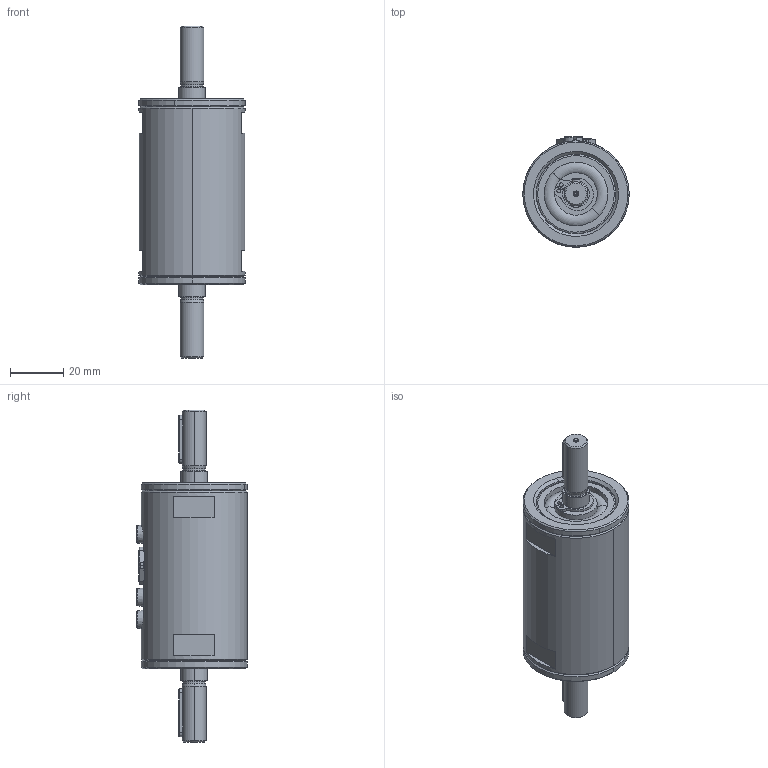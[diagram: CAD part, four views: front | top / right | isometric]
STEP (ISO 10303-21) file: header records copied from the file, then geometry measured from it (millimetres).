
FILE_DESCRIPTION (( 'STEP AP203' ), '1' );
FILE_NAME ('400006-ATS033-7,5Nm-7mm-Rund.STEP', '2017-02-20T10:21:57', ( '' ), ( '' ), 'SwSTEP 2.0', 'SolidWorks 2016', '' );
FILE_SCHEMA (( 'CONFIG_CONTROL_DESIGN' ));
Length unit declared in the file: millimetre
Products named in the file (14): 400006-ATS033-7,5Nm-7mm-Rund; 400006-ATM004_Rohrgehäuse-40mm; 400006-ATE009-Binder-712-0416-90-05; ISO 1207 - M4 x 5 --- 5S_ISO 1207 - M4 x 5 --- 5S; ISO 1207 - M4 x 4 --- 4S_ISO 1207 - M4 x 4 --- 4S; 400006-ATM005_Lagerdeckel-10mm; Circlip DIN 471 - 10 x 1_Circlip DIN 471 - 10 x 1; Passscheibe DIN 988_DIN 988-22x30x0.5; 400006-ATM036_Welle-7mm_Rund; 999999-ATN087-Tellerfeder-29,7x17,3_Standard; 400006-ATM002-Mutter-Binder-Stecker; Passfeder_Parallel key A3 x 3 x 18 DIN 6885; DIN 625 - 6200 - 8,SI,NC,8_68_DIN 625 - 6200 - Full,SI,NC,Full_68; 400006-ATS021-PCB12_mit_Stecker_Welle 7mm
Assembly tree (18 placements, depth 3):
  400006-ATS033-7,5Nm-7mm-Rund
    400006-ATM036_Welle-7mm_Rund
    400006-ATS021-PCB12_mit_Stecker_Welle 7mm
      400006-ATE009-Binder-712-0416-90-05
    400006-ATM004_Rohrgehäuse-40mm
    400006-ATM005_Lagerdeckel-10mm  x2
    999999-ATN087-Tellerfeder-29,7x17,3_Standard
    Circlip DIN 471 - 10 x 1_Circlip DIN 471 - 10 x 1  x2
    ISO 1207 - M4 x 4 --- 4S_ISO 1207 - M4 x 4 --- 4S
    ISO 1207 - M4 x 5 --- 5S_ISO 1207 - M4 x 5 --- 5S  x2
    DIN 625 - 6200 - 8,SI,NC,8_68_DIN 625 - 6200 - Full,SI,NC,Full_68  x2
    Passfeder_Parallel key A3 x 3 x 18 DIN 6885  x2
    400006-ATM002-Mutter-Binder-Stecker
    Passscheibe DIN 988_DIN 988-22x30x0.5
Bounding box: 40 x 41.6 x 125 mm (x, y, z)
Volume: 49074.6 mm3; surface area: 39373.5 mm2
Topology: 17 solids, 17 shells, 691 faces, 1647 edges, 1025 vertices
Faces by surface type: cylinder 264, plane 183, cone 164, torus 66, bspline 14
Entity records: 19095 total; most frequent: CARTESIAN_POINT 4439, DIRECTION 2891, ORIENTED_EDGE 2634, EDGE_CURVE 1317, AXIS2_PLACEMENT_3D 1199, VERTEX_POINT 829, CIRCLE 635, EDGE_LOOP 626
